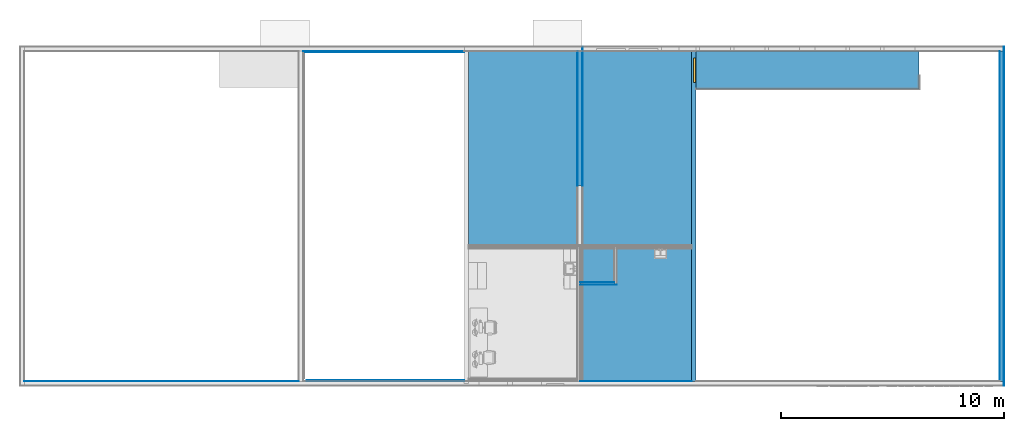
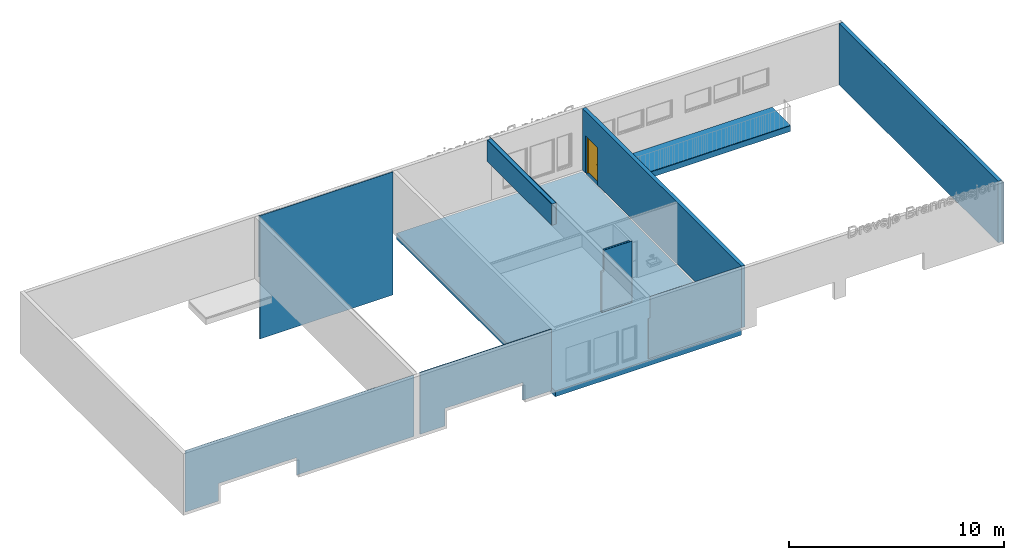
# One storey, part 2 of 12: 21 building element parts, 1 door, 4 openings, 10 elements without a shape of their own.
"""IFC4 building model written with IfcOpenShell, lengths in millimetres."""

import ifcopenshell
import ifcopenshell.guid

model = None  # the IFC model being written
_history = None  # IfcOwnerHistory: only IFC2X3 demands one
_inside = {}  # id of a spatial element -> (the spatial element, [elements in it])
_under = {}  # id of a project, library or spatial element -> (it, [spatial elements below it])
_declared = {}  # id of a project -> (the project, [libraries it declares])
_typed = {}  # id of a type object -> (the type object, [elements of that type])
_made_of = {}  # id of a material, layer set ... -> (it, [elements and type objects made of it])


def new_model(schema):
    """Start an empty IFC model of exactly this schema.

    Asked for "IFC4X3", IfcOpenShell would pick the latest addendum, in which some entities
    have other attributes; the version numbers below select the first issue.
    IFC2X3 requires an IfcOwnerHistory on every rooted entity: one is made here for all.
    """
    global model, _history
    if schema == "IFC4X3":
        model = ifcopenshell.file(schema_version=(4, 3, 0, 0))
    else:
        model = ifcopenshell.file(schema=schema)
    _inside.clear()
    _under.clear()
    _declared.clear()
    _typed.clear()
    _made_of.clear()
    _history = None
    if model.schema == "IFC2X3":
        org = make("IfcOrganization", Name="unknown")
        user = make(
            "IfcPersonAndOrganization",
            ThePerson=make("IfcPerson", FamilyName="unknown"),
            TheOrganization=org,
        )
        app = make(
            "IfcApplication",
            ApplicationDeveloper=org,
            Version="unknown",
            ApplicationFullName="unknown",
            ApplicationIdentifier="unknown",
        )
        _history = make(
            "IfcOwnerHistory",
            OwningUser=user,
            OwningApplication=app,
            ChangeAction="ADDED",
            CreationDate=0,
        )
    return model


def make(cls, **values):
    """One entity of the class cls with the attributes given. An attribute that is None is left unset."""
    return model.create_entity(
        cls, **{name: value for name, value in values.items() if value is not None}
    )


def entity(cls, *values):
    """Any entity or typed value of the class cls, its attributes in the order of the schema. None: left unset."""
    e = model.create_entity(cls)
    for i, value in enumerate(values):
        if value is not None:
            e[i] = value
    return e


def rooted(cls, **values):
    """An entity with a GlobalId (a new one), such as an element, a storey or a relation."""
    return make(cls, GlobalId=ifcopenshell.guid.new(), OwnerHistory=_history, **values)


def si_unit(unit_type, name, prefix=None):
    """IfcSIUnit, for example si_unit("LENGTHUNIT", "METRE", prefix="MILLI")."""
    return make("IfcSIUnit", UnitType=unit_type, Prefix=prefix, Name=name)


def converted_unit(unit_type, name, factor, base, dimensions=None, offset=None):
    """IfcConversionBasedUnit, such as the inch: factor (a typed value) times the base unit."""
    return make(
        "IfcConversionBasedUnit"
        if offset is None
        else "IfcConversionBasedUnitWithOffset",
        ConversionOffset=offset,
        Dimensions=None
        if dimensions is None
        else entity("IfcDimensionalExponents", *dimensions),
        UnitType=unit_type,
        Name=name,
        ConversionFactor=make(
            "IfcMeasureWithUnit", ValueComponent=factor, UnitComponent=base
        ),
    )


def assignment(units):
    """IfcUnitAssignment: the units of a project."""
    return None if units is None else make("IfcUnitAssignment", Units=units)


def point(xyz):
    """IfcCartesianPoint."""
    return None if xyz is None else make("IfcCartesianPoint", Coordinates=xyz)


def direction(xyz):
    """IfcDirection."""
    return None if xyz is None else make("IfcDirection", DirectionRatios=xyz)


def frame(location, z_axis=None, x_axis=None):
    """IfcAxis2Placement3D, a coordinate frame: its origin and axes. An axis left out is left unset."""
    return make(
        "IfcAxis2Placement3D",
        Location=point(location),
        Axis=direction(z_axis),
        RefDirection=direction(x_axis),
    )


def origin():
    """The frame at (0, 0, 0) with its axes left unset."""
    return frame((0.0, 0.0, 0.0))


def place(relative_to, where):
    """IfcLocalPlacement: puts the frame where relative to a parent placement (None: the world)."""
    return make(
        "IfcLocalPlacement", PlacementRelTo=relative_to, RelativePlacement=where
    )


def context(
    kind, dimensions, precision=None, world=None, true_north=None, identifier=None
):
    """IfcGeometricRepresentationContext, for example the 3D "Model" context."""
    return make(
        "IfcGeometricRepresentationContext",
        ContextIdentifier=identifier,
        ContextType=kind,
        CoordinateSpaceDimension=dimensions,
        Precision=precision,
        WorldCoordinateSystem=world,
        TrueNorth=true_north,
    )


def subcontext(parent, identifier, kind, view, scale=None):
    """IfcGeometricRepresentationSubContext, for example "Body" below "Model"."""
    return make(
        "IfcGeometricRepresentationSubContext",
        ContextIdentifier=identifier,
        ContextType=kind,
        ParentContext=parent,
        TargetScale=scale,
        TargetView=view,
    )


def project(units=None, contexts=None):
    """IfcProject with its units and contexts."""
    return rooted(
        "IfcProject",
        Name="project",
        RepresentationContexts=contexts,
        UnitsInContext=assignment(units),
    )


def spatial(cls, under=None, at=None, **own):
    """A site, building, storey or space (cls), placed at a placement, below another one or the project."""
    s = rooted(cls, ObjectPlacement=at, **own)
    if under is not None:
        _under.setdefault(under.id(), (under, []))[1].append(s)
    return s


def point_list(points):
    """IfcCartesianPointList2D or 3D."""
    cls = (
        "IfcCartesianPointList2D" if len(points[0]) == 2 else "IfcCartesianPointList3D"
    )
    return make(cls, CoordList=points)


def indexed_curve(points, segments=None, self_intersect=None):
    """IfcIndexedPolyCurve: lines and arcs through numbered points (the first is 1)."""
    return make(
        "IfcIndexedPolyCurve",
        Points=point_list(points),
        Segments=segments,
        SelfIntersect=self_intersect,
    )


def outline(outer, holes=None, kind="AREA"):
    """IfcArbitraryClosedProfileDef: a profile drawn as a closed curve; with holes, ...WithVoids."""
    if holes is None:
        return make("IfcArbitraryClosedProfileDef", ProfileType=kind, OuterCurve=outer)
    return make(
        "IfcArbitraryProfileDefWithVoids",
        ProfileType=kind,
        OuterCurve=outer,
        InnerCurves=holes,
    )


def extrude(swept, where, along, depth):
    """IfcExtrudedAreaSolid: the profile swept, set in the frame where, extruded along a direction by depth."""
    return make(
        "IfcExtrudedAreaSolid",
        SweptArea=swept,
        Position=where,
        ExtrudedDirection=direction(along),
        Depth=depth,
    )


def polygons(points, faces, closed=None, point_numbers=None):
    """IfcPolygonalFaceSet: a face is its outer loop, then its inner loops; points numbered from 1."""
    made = []
    for loops in faces:
        if len(loops) == 1:
            made.append(make("IfcIndexedPolygonalFace", CoordIndex=loops[0]))
        else:
            made.append(
                make(
                    "IfcIndexedPolygonalFaceWithVoids",
                    CoordIndex=loops[0],
                    InnerCoordIndices=loops[1:],
                )
            )
    return make(
        "IfcPolygonalFaceSet",
        Coordinates=point_list(points),
        Closed=closed,
        Faces=made,
        PnIndex=point_numbers,
    )


def shape(context_of_items, identifier, shape_type, items):
    """IfcShapeRepresentation: the items that make up one representation, for example the "Body"."""
    return make(
        "IfcShapeRepresentation",
        ContextOfItems=context_of_items,
        RepresentationIdentifier=identifier,
        RepresentationType=shape_type,
        Items=items,
    )


def source(mapping_origin, context_of_items, identifier, shape_type, items):
    """IfcRepresentationMap: a shape defined once, which mapped items show again and again."""
    return make(
        "IfcRepresentationMap",
        MappingOrigin=mapping_origin,
        MappedRepresentation=shape(context_of_items, identifier, shape_type, items),
    )


def transform(
    local_origin,
    x_axis=None,
    y_axis=None,
    z_axis=None,
    scale=None,
    scale2=None,
    scale3=None,
    uniform=True,
):
    """IfcCartesianTransformationOperator3D, or its non-uniform kind. x_axis, y_axis, z_axis: its Axis1, 2, 3."""
    if uniform:
        return make(
            "IfcCartesianTransformationOperator3D",
            Axis1=direction(x_axis),
            Axis2=direction(y_axis),
            LocalOrigin=point(local_origin),
            Scale=scale,
            Axis3=direction(z_axis),
        )
    return make(
        "IfcCartesianTransformationOperator3DnonUniform",
        Axis1=direction(x_axis),
        Axis2=direction(y_axis),
        LocalOrigin=point(local_origin),
        Scale=scale,
        Axis3=direction(z_axis),
        Scale2=scale2,
        Scale3=scale3,
    )


def mapped(mapping_source, mapping_target):
    """IfcMappedItem: shows the shape of a source again, moved by a transform."""
    return make(
        "IfcMappedItem", MappingSource=mapping_source, MappingTarget=mapping_target
    )


def material(Name=None, Category=None):
    """IfcMaterial."""
    return make("IfcMaterial", Name=Name, Category=Category)


def constituent(of_material, Name=None, Category=None, fraction=None):
    """IfcMaterialConstituent: one of the materials an element consists of."""
    return make(
        "IfcMaterialConstituent",
        Name=Name,
        Material=of_material,
        Fraction=fraction,
        Category=Category,
    )


def constituent_set(constituents=None, Name=None):
    """IfcMaterialConstituentSet."""
    return make(
        "IfcMaterialConstituentSet", Name=Name, MaterialConstituents=constituents
    )


def made_of(thing, what):
    """Note that an element or type object is made of a material, layer set ...; save() writes the relation."""
    if what is not None:
        _made_of.setdefault(what.id(), (what, []))[1].append(thing)
    return thing


def type_object(cls, material=None, **own):
    """A type object (cls), such as IfcWallType, which elements share."""
    return made_of(rooted(cls, **own), material)


def type_shapes(of_type, sources):
    """Give a type object the sources (RepresentationMaps) that its elements show as mapped items."""
    of_type.RepresentationMaps = sources


def element(
    cls,
    number,
    at=None,
    inside=None,
    cuts=None,
    type_object=None,
    material=None,
    context=None,
    identifier="Body",
    shape_type=None,
    held_by="IfcProductDefinitionShape",
    body=None,
    shapes=None,
    **own,
):
    """One element of the class cls, such as IfcWall. Its Tag is "e" and its number.

    at: its placement. inside: the storey or other place that contains it. cuts: it is an
    opening in that element (IfcRelVoidsElement). A single representation is given by context,
    identifier, shape_type and body (its items); several are given by shapes. held_by: the class
    of the entity that holds the representations. save() writes the other relations.
    """
    e = rooted(cls, Tag="e%d" % number, ObjectPlacement=at, **own)
    if body is not None:
        shapes = [shape(context, identifier, shape_type, body)]
    if shapes is not None:
        e.Representation = make(held_by, Representations=shapes)
    if inside is not None:
        _inside.setdefault(inside.id(), (inside, []))[1].append(e)
    if cuts is not None:
        rooted(
            "IfcRelVoidsElement", RelatingBuildingElement=cuts, RelatedOpeningElement=e
        )
    if type_object is not None:
        _typed.setdefault(type_object.id(), (type_object, []))[1].append(e)
    return made_of(e, material)


def fill(opening, filler):
    """IfcRelFillsElement: the door or window that sits in an opening."""
    return rooted(
        "IfcRelFillsElement",
        RelatingOpeningElement=opening,
        RelatedBuildingElement=filler,
    )


def aggregate(whole, parts):
    """IfcRelAggregates: a whole, such as a stair, and the parts it consists of."""
    return rooted("IfcRelAggregates", RelatingObject=whole, RelatedObjects=parts)


def save(model, path):
    """Write the relations noted so far, then the file.

    IfcRelAggregates (storeys below a building ...), IfcRelContainedInSpatialStructure (elements
    in a storey), IfcRelDefinesByType, IfcRelAssociatesMaterial and IfcRelDeclares: one each for
    every whole, place, type object, material and project.
    """
    for whole, parts in _under.values():
        aggregate(whole, parts)
    for where, things in _inside.values():
        rooted(
            "IfcRelContainedInSpatialStructure",
            RelatedElements=things,
            RelatingStructure=where,
        )
    for kind, things in _typed.values():
        rooted("IfcRelDefinesByType", RelatedObjects=things, RelatingType=kind)
    for what, things in _made_of.values():
        rooted("IfcRelAssociatesMaterial", RelatedObjects=things, RelatingMaterial=what)
    for by, libraries in _declared.values():
        rooted("IfcRelDeclares", RelatingContext=by, RelatedDefinitions=libraries)
    model.write(path)


model = new_model("IFC4")

# Units and contexts
model_context = context("Model", 3, precision=0.01, world=origin(), true_north=direction((0.0, 1.0)))
body_context = subcontext(model_context, "Body", "Model", "MODEL_VIEW")
ifc_project = project(units=[si_unit("LENGTHUNIT", "METRE", prefix="MILLI"), si_unit("AREAUNIT", "SQUARE_METRE"), si_unit("VOLUMEUNIT", "CUBIC_METRE"), converted_unit("PLANEANGLEUNIT", "DEGREE", entity("IfcPlaneAngleMeasure", 0.017453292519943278), si_unit("PLANEANGLEUNIT", "RADIAN"), dimensions=[0, 0, 0, 0, 0, 0, 0])], contexts=[model_context])

# Site, building, storey
site_placement = place(None, origin())
site = spatial("IfcSite", under=ifc_project, at=site_placement, Name="Tomtens navn", CompositionType="ELEMENT")
building_placement = place(site_placement, origin())
building = spatial("IfcBuilding", under=site, at=building_placement, Name="Byggets navn", CompositionType="ELEMENT")
storey_placement = place(building_placement, frame((0.0, 0.0, 3500.0)))
storey = spatial("IfcBuildingStorey", under=building, at=storey_placement, Name="Level 02", CompositionType="ELEMENT", Elevation=3499.999999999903)

# Door
ifc_material_1 = material(Name="Rustfritt Stål", Category="Metal")
ifc_constituent_1 = constituent(ifc_material_1, Name="Rustfritt Stål", Category="Metal", fraction=0.0016552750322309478)
ifc_material_2 = material(Name="Hvit", Category="Paint")
ifc_constituent_2 = constituent(ifc_material_2, Name="Hvit", Category="Paint", fraction=0.998344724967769)
ifc_constituent_set_1 = constituent_set(constituents=[ifc_constituent_1, ifc_constituent_2])
ifc_constituent_3 = constituent(ifc_material_1, Name="Rustfritt Stål", Category="Metal", fraction=0.0008283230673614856)
ifc_constituent_4 = constituent(ifc_material_2, Name="Panel", Category="Paint", fraction=0.4995858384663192)
ifc_constituent_5 = constituent(ifc_material_2, Name="Frame/Mullion", Category="Paint", fraction=0.4995858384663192)
ifc_constituent_set_2 = constituent_set(constituents=[ifc_constituent_3, ifc_constituent_4, ifc_constituent_5])
door_type = type_object("IfcDoorType", Name="Enfløyet:ID02 11x21M", OperationType="SINGLE_SWING_LEFT", PredefinedType="DOOR", material=ifc_constituent_set_2)
shared_shape = source(origin(), body_context, "Body", "SweptSolid", [
    extrude(outline(indexed_curve([(-33.33333333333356, -50.833333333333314), (24.16666666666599, -50.833333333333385), (24.16666666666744, 86.66666666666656), (9.166666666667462, 86.6666666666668), (9.166666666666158, -35.83333333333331), (-33.33333333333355, -35.83333333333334), (-33.33333333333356, -50.833333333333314)], self_intersect=False)), frame((968.6666666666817, 198.9410394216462, 980.5000000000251), z_axis=(0.0, 0.0, 1.0), x_axis=(0.0, 1.0, 0.0)), (0.0, 0.0, 1.0), 14.999999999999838),
    extrude(outline(indexed_curve([(-2.8000000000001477, -25.000000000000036), (2.7999999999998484, -25.000000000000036), (2.8000000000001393, 25.000000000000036), (-2.7999999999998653, 24.999999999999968), (-2.8000000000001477, -25.000000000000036)], self_intersect=False)), frame((1012.0, 162.8000000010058, 850.9862950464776), z_axis=(0.0, 0.0, 1.0), x_axis=(0.0, -1.0, 0.0)), (0.0, 0.0, 1.0), 159.01370495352),
    extrude(outline(indexed_curve([(-50.83333333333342, -33.33333333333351), (-35.83333333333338, -33.33333333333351), (-35.83333333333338, 9.166666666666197), (86.66666666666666, 9.166666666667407), (86.66666666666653, 24.1666666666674), (-50.83333333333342, 24.166666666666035), (-50.83333333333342, -33.33333333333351)], self_intersect=False)), frame((968.6666666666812, 81.05896058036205, 980.5000000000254), z_axis=(0.0, 0.0, 1.0), x_axis=(-1.0, 0.0, 0.0)), (0.0, 0.0, 1.0), 14.999999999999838),
    extrude(outline(indexed_curve([(-25.0, -2.800000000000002), (25.0, -2.800000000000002), (24.999999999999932, 2.799999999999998), (-25.0, 2.799999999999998), (-25.0, -2.800000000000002)], self_intersect=False)), frame((1012.0, 117.20000000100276, 850.9862950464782)), (0.0, 0.0, 1.0), 159.01370495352),
    extrude(outline(indexed_curve([(-506.99999999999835, -19.999999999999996), (506.99999999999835, -19.999999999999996), (506.99999999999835, 19.999999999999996), (-506.99999999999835, 19.999999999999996), (-506.99999999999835, -19.999999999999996)], self_intersect=False)), frame((555.0, 140.00000000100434, 10.0)), (0.0, 0.0, 1.0), 2042.0),
    extrude(outline(indexed_curve([(506.9999999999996, -1035.5000000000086), (544.9999999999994, -1035.5000000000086), (544.9999999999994, 1054.5000000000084), (-544.9999999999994, 1054.5000000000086), (-544.9999999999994, -1035.5000000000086), (-506.9999999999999, -1035.5000000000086), (-506.9999999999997, 1016.5000000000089), (506.9999999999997, 1016.5000000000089), (506.9999999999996, -1035.5000000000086)], self_intersect=False)), frame((555.0, 160.00000000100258, 1035.5000000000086), z_axis=(0.0, -1.0, 0.0), x_axis=(1.0, 0.0, 0.0)), (0.0, 0.0, 1.0), 99.99999999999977),
])
type_shapes(door_type, [shared_shape])
wall_6_placement = place(storey_placement, frame((68722.85352810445, 8061.466456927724, 0.0), z_axis=(0.0, 0.0, 1.0), x_axis=(0.0, 1.0, 0.0)))
opening_4_placement = place(wall_6_placement, frame((14500.0, 100.0, 0.0)))
door_placement = place(opening_4_placement, frame((0.0, -20.0, 0.0), z_axis=(0.0, 0.0, 1.0), x_axis=(-1.0, 0.0, 0.0)))
door = element("IfcDoor", 1, at=door_placement, inside=storey, type_object=door_type, material=ifc_constituent_set_1, Name="Enfløyet:ID02 11x21M", OverallHeight=2110.0000000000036, OverallWidth=1109.9999999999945, PredefinedType="DOOR", context=body_context, shape_type="MappedRepresentation", body=[
    mapped(shared_shape, transform((0.0, 0.0, 0.0), scale=1.0)),
])

# Wall, openings, building element parts
wall_type_1 = type_object("IfcWallType", Name="Basic Wall:YV02 Sandwichvegg 200", PredefinedType="STANDARD")
wall_1_placement = place(storey_placement, frame((82622.85352810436, 7961.466456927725, 0.0), z_axis=(0.0, 0.0, 1.0), x_axis=(-1.0, 0.0, 0.0)))
wall_1 = element("IfcWall", 2, at=wall_1_placement, inside=storey, type_object=wall_type_1, Name="Basic Wall:YV02 Sandwichvegg 200", PredefinedType="NOTDEFINED")
opening_1_placement = place(wall_1_placement, frame((20527.0, 100.0, 400.0)))
element("IfcOpeningElement", 3, at=opening_1_placement, cuts=wall_1, Name="Åpningsvindu:V02 8x19M:1", PredefinedType="OPENING", context=body_context, shape_type="SweptSolid", body=[
    extrude(outline(indexed_curve([(0.0, -5.414335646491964e-13), (1910.0000000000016, -5.414335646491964e-13), (1910.0000000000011, 809.9999999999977), (0.0, 809.9999999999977), (0.0, -5.414335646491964e-13)], self_intersect=False)), frame((0.0, 0.0, 0.0), z_axis=(0.0, -1.0, 0.0), x_axis=(0.0, 0.0, 1.0)), (0.0, 0.0, 1.0), 200.0),
])
opening_2_placement = place(wall_1_placement, frame((20727.0, -100.0, 400.0)))
element("IfcOpeningElement", 4, at=opening_2_placement, cuts=wall_1, Name="Fastvindu:V01 13x19M:1", PredefinedType="OPENING", context=body_context, shape_type="SweptSolid", body=[
    extrude(outline(indexed_curve([(0.0, 1310.0000000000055), (0.0, 1.4975171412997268e-29), (1910.000000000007, 1.4975171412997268e-29), (1910.000000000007, 1310.0000000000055), (0.0, 1310.0000000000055)], self_intersect=False)), frame((0.0, 0.0, 0.0), z_axis=(0.0, 1.0, 0.0), x_axis=(0.0, 0.0, 1.0)), (0.0, 0.0, 1.0), 200.0),
])
opening_3_placement = place(wall_1_placement, frame((22237.0, -100.0, 400.0)))
element("IfcOpeningElement", 5, at=opening_3_placement, cuts=wall_1, Name="Fastvindu:V01 13x19M:1", PredefinedType="OPENING", context=body_context, shape_type="SweptSolid", body=[
    extrude(outline(indexed_curve([(0.0, 1310.0000000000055), (0.0, 1.6847067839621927e-29), (1910.000000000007, 1.6847067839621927e-29), (1910.000000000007, 1310.0000000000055), (0.0, 1310.0000000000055)], self_intersect=False)), frame((0.0, 0.0, 0.0), z_axis=(0.0, 1.0, 0.0), x_axis=(0.0, 0.0, 1.0)), (0.0, 0.0, 1.0), 200.0),
])
building_element_part_1_placement = place(wall_1_placement, frame((19005.499999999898, -98.0, 0.0)))
building_element_part_1 = element("IfcBuildingElementPart", 6, at=building_element_part_1_placement, material=ifc_material_1, Name="Rustfritt Stål", context=body_context, shape_type="Tessellation", body=[
    polygons([(-8.916469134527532e-13, 9.094947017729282e-13, -9.094947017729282e-13), (-8.916469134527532e-13, 9.094947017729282e-13, 2290.000000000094), (-8.918681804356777e-13, -1.9999999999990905, 2290.000000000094), (-8.918681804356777e-13, -1.9999999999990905, -9.094947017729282e-13), (-5005.499999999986, -1.8189894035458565e-12, 3499.9999999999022), (-5005.499999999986, -1.8189894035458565e-12, -9.094947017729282e-13), (-5005.499999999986, -2.0000000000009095, -9.094947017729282e-13), (-5005.499999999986, -2.0000000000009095, 3499.999999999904), (-104.99999999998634, -1.9999999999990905, 2290.000000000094), (-104.99999999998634, 9.094947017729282e-13, 2290.000000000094), (-104.99999999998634, 9.094947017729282e-13, 3499.9999999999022), (-104.99999999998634, -1.9999999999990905, 3499.999999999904), (-130.99999999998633, -1.9999999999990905, 3499.999999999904), (-28.00000000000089, -1.9999999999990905, -9.094947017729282e-13)], [[[1, 2, 3, 4]], [[5, 6, 7, 8]], [[9, 10, 11, 12]], [[10, 9, 3, 2]], [[13, 8, 7, 14, 4, 3, 9, 12]], [[14, 7, 6, 1, 4]], [[8, 13, 12, 11, 5]], [[2, 1, 6, 5, 11, 10]]], closed=True),
])
building_element_part_2_placement = place(wall_1_placement, frame((43910.0, -98.0, 0.0)))
building_element_part_2 = element("IfcBuildingElementPart", 7, at=building_element_part_2_placement, material=ifc_material_1, Name="Rustfritt Stål", context=body_context, shape_type="Tessellation", body=[
    polygons([(-12300.000000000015, -2.0, 3499.9999999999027), (-8.918681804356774e-13, -1.9999999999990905, 3499.9999999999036), (-8.91646913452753e-13, 0.0, 3499.9999999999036), (-12302.000000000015, 0.0, 3499.9999999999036), (-12302.000000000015, -2.0, 3499.9999999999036), (-8.91646913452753e-13, 0.0, 4.547473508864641e-13), (-8.918681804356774e-13, -1.9999999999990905, 4.547473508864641e-13), (-1810.0000000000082, 0.0, 1000.0000000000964), (-1810.000000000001, 0.0, 4.547473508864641e-13), (-1810.0000000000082, -1.9999999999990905, 4.547473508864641e-13), (-1810.000000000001, -1.9999999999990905, 1000.0000000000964), (-6009.999999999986, -9.094947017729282e-13, 1000.0000000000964), (-6010.000000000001, -2.0000000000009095, 1000.0000000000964), (-6010.000000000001, -9.094947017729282e-13, 4.547473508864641e-13), (-6010.000000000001, -2.0000000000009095, 4.547473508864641e-13), (-12302.000000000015, 0.0, 4.547473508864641e-13), (-12302.000000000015, -2.0, 4.547473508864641e-13), (-12300.000000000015, -2.0, 4.547473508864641e-13)], [[[1, 2, 3, 4, 5]], [[6, 3, 2, 7]], [[8, 9, 10, 11]], [[12, 8, 11, 13]], [[14, 12, 13, 15]], [[9, 6, 7, 10]], [[4, 16, 17, 5]], [[2, 1, 5, 17, 18, 15, 13, 11, 10, 7]], [[14, 15, 18, 17, 16]], [[3, 6, 9, 8, 12, 14, 16, 4]]], closed=True),
])
aggregate(wall_1, [building_element_part_1, building_element_part_2])

# Slab, building element part
slab_type_1 = type_object("IfcSlabType", Name="Floor:HD-320+ isolasjon og avretting", PredefinedType="FLOOR")
slab_1_placement = place(storey_placement, origin())
slab_1 = element("IfcSlab", 8, at=slab_1_placement, inside=storey, type_object=slab_type_1, Name="Floor:HD-320+ isolasjon og avretting", PredefinedType="FLOOR")
building_element_part_3_placement = place(slab_1_placement, origin())
building_element_part_3 = element("IfcBuildingElementPart", 9, at=building_element_part_3_placement, Name="Floor:HD-320+ isolasjon og avretting", context=body_context, shape_type="SweptSolid", body=[
    extrude(outline(indexed_curve([(-7400.000000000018, -4999.999999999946), (7400.000000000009, -4999.999999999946), (7400.000000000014, 4999.999999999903), (-7400.000000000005, 4999.999999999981), (-7400.000000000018, -4999.999999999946)], self_intersect=False)), frame((63622.853528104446, 15461.46645692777, -412.0), z_axis=(0.0, 0.0, 1.0), x_axis=(0.0, -1.0, 0.0)), (0.0, 0.0, 1.0), 319.99999999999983),
])
aggregate(slab_1, [building_element_part_3])

# Wall, building element parts
wall_type_2 = type_object("IfcWallType", Name="Basic Wall:IV25 - 2xGips- Stende4+2xgips 2", PredefinedType="STANDARD")
wall_2_placement = place(storey_placement, frame((63622.35352810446, 22861.46645692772, 2290.0), z_axis=(0.0, 0.0, 1.0), x_axis=(0.0, -1.0, 0.0)))
wall_2 = element("IfcWall", 10, at=wall_2_placement, inside=storey, type_object=wall_type_2, Name="Basic Wall:IV25 - 2xGips- Stende4+2xgips 2", PredefinedType="NOTDEFINED")
ifc_material_3 = material(Name="Gipsplater", Category="NOR ^ Gips")
building_element_part_4_placement = place(wall_2_placement, origin())
building_element_part_4 = element("IfcBuildingElementPart", 11, at=building_element_part_4_placement, material=ifc_material_3, Name="Gipsplater", context=body_context, shape_type="SweptSolid", body=[
    extrude(outline(indexed_curve([(-3110.249999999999, -6.49999999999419), (3110.249999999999, -6.49999999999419), (3110.249999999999, 6.500000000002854), (-3110.249999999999, 6.500000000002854), (-3110.249999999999, -6.49999999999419)], self_intersect=False)), frame((2910.250000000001, 119.49999999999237, 0.0)), (0.0, 0.0, 1.0), 1210.0),
])
building_element_part_5_placement = place(wall_2_placement, origin())
building_element_part_5 = element("IfcBuildingElementPart", 12, at=building_element_part_5_placement, material=ifc_material_3, Name="Gipsplater", context=body_context, shape_type="SweptSolid", body=[
    extrude(outline(indexed_curve([(-3010.25, -6.500000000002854), (3010.25, -6.500000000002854), (3010.25, 6.49999999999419), (-3010.25, 6.49999999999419), (-3010.25, -6.500000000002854)], self_intersect=False)), frame((3010.25, -106.49999999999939, 0.0)), (0.0, 0.0, 1.0), 1210.0),
])
building_element_part_6_placement = place(wall_2_placement, origin())
building_element_part_6 = element("IfcBuildingElementPart", 13, at=building_element_part_6_placement, material=ifc_material_3, Name="Gipsplater", context=body_context, shape_type="SweptSolid", body=[
    extrude(outline(indexed_curve([(-3109.249999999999, -6.500000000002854), (3109.249999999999, -6.500000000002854), (3109.249999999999, 6.49999999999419), (-3109.249999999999, 6.49999999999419), (-3109.249999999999, -6.500000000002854)], self_intersect=False)), frame((2911.250000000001, 106.500000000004, 0.0)), (0.0, 0.0, 1.0), 1210.0000000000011),
])
building_element_part_7_placement = place(wall_2_placement, origin())
building_element_part_7 = element("IfcBuildingElementPart", 14, at=building_element_part_7_placement, material=ifc_material_3, Name="Gipsplater", context=body_context, shape_type="SweptSolid", body=[
    extrude(outline(indexed_curve([(-3010.25, -6.500000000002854), (3010.25, -6.500000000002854), (3010.25, 6.500000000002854), (-3010.25, 6.500000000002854), (-3010.25, -6.500000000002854)], self_intersect=False)), frame((3010.25, -119.5000000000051, 0.0)), (0.0, 0.0, 1.0), 1210.0),
])
ifc_material_4 = material(Name="Stender", Category="Unassigned")
building_element_part_8_placement = place(wall_2_placement, origin())
building_element_part_8 = element("IfcBuildingElementPart", 15, at=building_element_part_8_placement, material=ifc_material_4, Name="Stender", context=body_context, shape_type="SweptSolid", body=[
    extrude(outline(indexed_curve([(-3011.25, -99.99999999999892), (3011.25, -99.99999999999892), (3011.250000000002, 100.00000000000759), (-3011.25, 100.00000000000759), (-3011.25, -99.99999999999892)], self_intersect=False)), frame((3009.2500000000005, 0.0, 0.0)), (0.0, 0.0, 1.0), 1210.0000000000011),
])
aggregate(wall_2, [building_element_part_4, building_element_part_5, building_element_part_6, building_element_part_7, building_element_part_8])

# Wall, building element part
wall_type_3 = type_object("IfcWallType", Name="Basic Wall:IV17 - Utforing lekt+fasadeplater", PredefinedType="STANDARD")
wall_3_placement = place(storey_placement, frame((51258.853528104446, 22838.46645692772, -3500.0)))
wall_3 = element("IfcWall", 16, at=wall_3_placement, inside=storey, type_object=wall_type_3, Name="Basic Wall:IV17 - Utforing lekt+fasadeplater", PredefinedType="NOTDEFINED")
ifc_material_5 = material(Name="NO_platekledning", Category="Tre")
building_element_part_9_placement = place(wall_3_placement, origin())
building_element_part_9 = element("IfcBuildingElementPart", 17, at=building_element_part_9_placement, material=ifc_material_5, Name="NO_platekledning", context=body_context, shape_type="SweptSolid", body=[
    extrude(outline(indexed_curve([(-4.999999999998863, -3582.0000000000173), (4.999999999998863, -3582.0000000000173), (4.999999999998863, 3582.0), (-4.999999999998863, 3582.0000000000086), (-4.999999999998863, -3582.0000000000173)], self_intersect=False)), frame((3582.0, -18.0, 0.0), z_axis=(0.0, 0.0, 1.0), x_axis=(0.0, -1.0, 0.0)), (0.0, 0.0, 1.0), 6999.999999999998),
])
aggregate(wall_3, [building_element_part_9])

# Wall, building element parts
wall_4_placement = place(storey_placement, frame((51362.853528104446, 8084.466456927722, 0.0)))
wall_4 = element("IfcWall", 18, at=wall_4_placement, inside=storey, type_object=wall_type_3, Name="Basic Wall:IV17 - Utforing lekt+fasadeplater", PredefinedType="NOTDEFINED")
building_element_part_10_placement = place(wall_4_placement, frame((0.0, 13.0, 0.0)))
building_element_part_10 = element("IfcBuildingElementPart", 19, at=building_element_part_10_placement, material=ifc_material_5, Name="NO_platekledning", context=body_context, shape_type="Tessellation", body=[
    polygons([(8.822346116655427e-13, 0.0, -9.094947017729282e-13), (1319.9999999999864, 0.0, -9.094947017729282e-13), (1319.9999999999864, 0.0, 1000.000000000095), (5519.999999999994, 0.0, 1000.000000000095), (5519.999999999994, 0.0, -9.094947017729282e-13), (7060.000000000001, 0.0, 0.0), (7060.000000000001, 0.0, 3499.9999999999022), (8.158192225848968e-12, 0.0, 3499.999999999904), (8.833241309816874e-13, 10.00000000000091, -9.094947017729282e-13), (1319.9999999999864, 10.00000000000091, -9.094947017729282e-13), (7060.000000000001, 10.0, 3499.9999999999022), (8.833241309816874e-13, 10.00000000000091, 3499.9999999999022), (7060.000000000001, 10.0, -9.094947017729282e-13), (1319.9999999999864, 10.00000000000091, 1000.000000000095), (5519.999999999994, 10.0, 1000.000000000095), (5519.999999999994, 10.0, -9.094947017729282e-13)], [[[1, 2, 3, 4, 5, 6, 7, 8]], [[9, 10, 2, 1]], [[11, 12, 8, 7]], [[12, 9, 1, 8]], [[13, 11, 7, 6]], [[14, 15, 4, 3]], [[15, 16, 5, 4]], [[10, 14, 3, 2]], [[16, 13, 6, 5]], [[12, 11, 13, 16, 15, 14, 10, 9]]], closed=True),
])
building_element_part_11_placement = place(wall_4_placement, frame((0.0, -23.0, 0.0)))
building_element_part_11 = element("IfcBuildingElementPart", 20, at=building_element_part_11_placement, material=ifc_material_4, Name="Stender", context=body_context, shape_type="Tessellation", body=[
    polygons([(1319.9999999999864, 36.0, -9.094947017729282e-13), (8.822346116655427e-13, 36.0, -9.094947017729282e-13), (8.158192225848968e-12, 36.0, 3499.999999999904), (7060.000000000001, 36.0, 3499.9999999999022), (7060.000000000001, 36.0, 0.0), (5519.999999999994, 36.0, -9.094947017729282e-13), (5519.999999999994, 36.0, 1000.000000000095), (1319.9999999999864, 36.0, 1000.000000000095), (7060.000000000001, 0.0, 3499.9999999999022), (8.783123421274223e-13, 0.0, 3499.9999999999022), (8.783123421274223e-13, 0.0, -9.094947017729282e-13), (1319.9999999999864, 0.0, -9.094947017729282e-13), (1319.9999999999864, 0.0, 1000.000000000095), (5519.999999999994, -9.094947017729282e-13, 1000.000000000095), (5519.999999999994, 0.0, -9.094947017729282e-13), (7060.000000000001, 0.0, -9.094947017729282e-13)], [[[1, 2, 3, 4, 5, 6, 7, 8]], [[9, 10, 11, 12, 13, 14, 15, 16]], [[12, 11, 2, 1]], [[10, 9, 4, 3]], [[11, 10, 3, 2]], [[9, 16, 5, 4]], [[14, 13, 8, 7]], [[15, 14, 7, 6]], [[13, 12, 1, 8]], [[16, 15, 6, 5]]], closed=True),
])
aggregate(wall_4, [building_element_part_10, building_element_part_11])

# Slab, building element parts
slab_type_2 = type_object("IfcSlabType", Name="Floor:HD-320 mesanin +30mm", PredefinedType="FLOOR")
slab_2_placement = place(storey_placement, origin())
slab_2 = element("IfcSlab", 21, at=slab_2_placement, inside=storey, type_object=slab_type_2, Name="Floor:HD-320 mesanin +30mm", PredefinedType="FLOOR")
ifc_material_6 = material(Name="NO_Betong - Plasstøpt", Category="Betong")
building_element_part_12_placement = place(slab_2_placement, origin())
building_element_part_12 = element("IfcBuildingElementPart", 22, at=building_element_part_12_placement, material=ifc_material_6, Name="NO_Betong - Plasstøpt", context=body_context, shape_type="SweptSolid", body=[
    extrude(outline(indexed_curve([(-851.0000000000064, -4999.999999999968), (850.9999999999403, -4999.999999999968), (851.000000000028, 4999.999999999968), (-850.9999999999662, 4999.999999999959), (-851.0000000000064, -4999.999999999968)], self_intersect=False)), frame((73822.85352810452, 22012.466456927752, -30.0), z_axis=(0.0, 0.0, 1.0), x_axis=(0.0, -1.0, 0.0)), (0.0, 0.0, 1.0), 30.00000000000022),
])
building_element_part_13_placement = place(slab_2_placement, origin())
building_element_part_13 = element("IfcBuildingElementPart", 23, at=building_element_part_13_placement, Name="Floor:HD-320 mesanin +30mm", context=body_context, shape_type="SweptSolid", body=[
    extrude(outline(indexed_curve([(-851.0000000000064, -4999.999999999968), (850.9999999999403, -4999.999999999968), (851.000000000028, 4999.999999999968), (-850.9999999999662, 4999.999999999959), (-851.0000000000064, -4999.999999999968)], self_intersect=False)), frame((73822.85352810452, 22012.466456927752, -350.0), z_axis=(0.0, 0.0, 1.0), x_axis=(0.0, -1.0, 0.0)), (0.0, 0.0, 1.0), 319.99999999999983),
])
aggregate(slab_2, [building_element_part_12, building_element_part_13])

# Wall, building element parts
wall_5_placement = place(storey_placement, frame((82522.85352810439, 22861.466456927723, 0.0), z_axis=(0.0, 0.0, 1.0), x_axis=(0.0, -1.0, 0.0)))
wall_5 = element("IfcWall", 24, at=wall_5_placement, inside=storey, type_object=wall_type_1, Name="Basic Wall:YV02 Sandwichvegg 200", PredefinedType="NOTDEFINED")
ifc_material_7 = material(Name="Metall - Malt overflate - Mørk Grå, Matt", Category="Unassigned")
building_element_part_14_placement = place(wall_5_placement, origin())
building_element_part_14 = element("IfcBuildingElementPart", 25, at=building_element_part_14_placement, material=ifc_material_7, Name="Metall - Malt overflate - Mørk Grå, Matt", context=body_context, shape_type="SweptSolid", body=[
    extrude(outline(indexed_curve([(-7597.999999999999, -1.0000000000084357), (7597.999999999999, -1.0000000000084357), (7597.999999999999, 0.9999999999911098), (-7597.999999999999, 0.9999999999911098), (-7597.999999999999, -1.0000000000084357)], self_intersect=False)), frame((7400.0, 99.0, 0.0)), (0.0, 0.0, 1.0), 3500.000000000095),
])
building_element_part_15_placement = place(wall_5_placement, origin())
building_element_part_15 = element("IfcBuildingElementPart", 26, at=building_element_part_15_placement, material=ifc_material_1, Name="Rustfritt Stål", context=body_context, shape_type="SweptSolid", body=[
    extrude(outline(indexed_curve([(-7399.999999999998, -1.0000000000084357), (7399.999999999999, -1.0000000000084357), (7399.999999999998, 1.0000000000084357), (-7399.999999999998, 1.0000000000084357), (-7399.999999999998, -1.0000000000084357)], self_intersect=False)), frame((7400.0, -99.0, 0.0)), (0.0, 0.0, 1.0), 3500.000000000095),
])
ifc_material_8 = material(Name="NO_Isolasjon - Fast", Category="Isolasjon")
building_element_part_16_placement = place(wall_5_placement, origin())
building_element_part_16 = element("IfcBuildingElementPart", 27, at=building_element_part_16_placement, material=ifc_material_8, Name="NO_Isolasjon - Fast", context=body_context, shape_type="SweptSolid", body=[
    extrude(outline(indexed_curve([(-7401.999999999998, -97.99999999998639), (7401.999999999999, -97.99999999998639), (7401.999999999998, 98.00000000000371), (-7401.999999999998, 98.00000000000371), (-7401.999999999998, -97.99999999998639)], self_intersect=False)), frame((7400.0, 0.0, 0.0)), (0.0, 0.0, 1.0), 3500.000000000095),
])
aggregate(wall_5, [building_element_part_14, building_element_part_15, building_element_part_16])

# Wall, opening
wall_type_4 = type_object("IfcWallType", Name="Basic Wall:IV21 Betong 200", PredefinedType="STANDARD")
wall_6 = element("IfcWall", 28, at=wall_6_placement, inside=storey, type_object=wall_type_4, Name="Basic Wall:IV21 Betong 200", PredefinedType="NOTDEFINED")
opening_4 = element("IfcOpeningElement", 29, at=opening_4_placement, cuts=wall_6, Name="Enfløyet:ID02 11x21M:1", PredefinedType="OPENING", context=body_context, shape_type="SweptSolid", body=[
    extrude(outline(indexed_curve([(0.0, 2.1657342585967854e-12), (2110.0000000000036, 2.1657342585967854e-12), (2110.000000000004, 1109.9999999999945), (0.0, 1109.9999999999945), (0.0, 2.1657342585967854e-12)], self_intersect=False)), frame((0.0, 0.0, 0.0), z_axis=(0.0, -1.0, 0.0), x_axis=(0.0, 0.0, 1.0)), (0.0, 0.0, 1.0), 200.0),
])

fill(opening_4, door)

# Building element part
building_element_part_17_placement = place(wall_6_placement, frame((-2.0, 100.0, 0.0)))
building_element_part_17 = element("IfcBuildingElementPart", 30, at=building_element_part_17_placement, material=ifc_material_6, Name="NO_Betong - Plasstøpt", context=body_context, shape_type="Tessellation", body=[
    polygons([(14801.999999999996, -200.00000000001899, 3499.9999999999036), (1.8189894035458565e-12, -200.00000000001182, 3499.9999999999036), (1.8189894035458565e-12, -200.00000000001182, 4.547473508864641e-13), (13392.000000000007, -200.0000000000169, 4.547473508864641e-13), (13392.000000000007, -200.0000000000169, 2110.0000000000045), (14502.0, -200.00000000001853, 2110.0000000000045), (14502.000000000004, -200.00000000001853, 4.547473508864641e-13), (14801.999999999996, -200.00000000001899, 4.547473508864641e-13), (1.8189894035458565e-12, -1.1819624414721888e-11, 3499.9999999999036), (5948.000000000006, -5.9907588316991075e-12, 3499.9999999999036), (6097.000000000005, -6.209275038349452e-12, 3499.9999999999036), (14801.999999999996, -4.423692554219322e-12, 3499.9999999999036), (14801.999999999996, -4.423692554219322e-12, 4.547473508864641e-13), (14502.000000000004, -3.983727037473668e-12, 4.547473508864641e-13), (14502.0, -3.9837270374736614e-12, 2110.0000000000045), (13392.000000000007, -2.3558546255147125e-12, 2110.0000000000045), (13392.000000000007, -2.3558546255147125e-12, 4.547473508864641e-13), (6097.000000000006, -6.2092750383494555e-12, 4.547473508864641e-13), (5948.000000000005, -5.9907588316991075e-12, 4.547473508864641e-13), (1.8189894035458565e-12, -1.1819624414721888e-11, 4.547473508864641e-13), (14801.999999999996, -199.50000000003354, 3499.9999999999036), (14801.999999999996, -199.50000000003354, 4.547473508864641e-13)], [[[1, 2, 3, 4, 5, 6, 7, 8]], [[9, 10, 11, 12, 13, 14, 15, 16, 17, 18, 19, 20]], [[4, 3, 20, 19, 18, 17]], [[2, 1, 21, 12, 11, 10, 9]], [[7, 6, 15, 14]], [[6, 5, 16, 15]], [[5, 4, 17, 16]], [[1, 8, 22, 13, 12, 21]], [[8, 7, 14, 13, 22]], [[3, 2, 9, 20]]], closed=True),
])

aggregate(wall_6, [building_element_part_17])

# Wall, building element parts
wall_type_5 = type_object("IfcWallType", Name="Basic Wall:IV02 Gips Stender Gips-120mm", PredefinedType="STANDARD")
wall_7_placement = place(storey_placement, frame((65145.35352810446, 12446.966456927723, 0.0), z_axis=(0.0, 0.0, 1.0), x_axis=(-1.0, 0.0, 0.0)))
wall_7 = element("IfcWall", 31, at=wall_7_placement, inside=storey, type_object=wall_type_5, Name="Basic Wall:IV02 Gips Stender Gips-120mm", PredefinedType="NOTDEFINED")
building_element_part_18_placement = place(wall_7_placement, frame((1528.0, 47.50000000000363, 0.0)))
building_element_part_18 = element("IfcBuildingElementPart", 32, at=building_element_part_18_placement, material=ifc_material_4, Name="Stender", context=body_context, shape_type="Tessellation", body=[
    polygons([(-130.999999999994, -95.00000000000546, 2290.000000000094), (-1.283453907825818e-12, -95.00000000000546, 2290.000000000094), (-1.4949824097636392e-12, -5.4569682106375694e-12, 2290.000000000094), (-130.99999999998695, -5.4569682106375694e-12, 2290.000000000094), (-1541.0000000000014, -95.00000000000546, -9.094947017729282e-13), (-1.283453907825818e-12, -95.00000000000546, -9.094947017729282e-13), (-130.999999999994, -95.00000000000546, 3500.000000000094), (-1541.0000000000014, -95.00000000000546, 3500.000000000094), (-1541.0000000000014, -95.00000000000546, 2290.000000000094), (-1541.0000000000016, -5.4569682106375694e-12, -9.094947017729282e-13), (-1.4949824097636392e-12, -5.4569682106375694e-12, -9.094947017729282e-13), (-1541.0000000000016, -5.4569682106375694e-12, 2290.000000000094), (-1541.0000000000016, -5.4569682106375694e-12, 3500.000000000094), (-130.99999999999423, -5.4569682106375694e-12, 3500.000000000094)], [[[1, 2, 3, 4]], [[5, 6, 2, 1, 7, 8, 9]], [[6, 5, 10, 11]], [[11, 10, 12, 13, 14, 4, 3]], [[10, 5, 9, 8, 13, 12]], [[6, 11, 3, 2]], [[7, 1, 4, 14]], [[8, 7, 14, 13]]], closed=True),
])
building_element_part_19_placement = place(wall_7_placement, frame((1513.0, -47.49999999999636, 0.0)))
building_element_part_19 = element("IfcBuildingElementPart", 33, at=building_element_part_19_placement, material=ifc_material_3, Name="Gipsplater", context=body_context, shape_type="Tessellation", body=[
    polygons([(5.992503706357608e-12, -5.4569682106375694e-12, 2290.000000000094), (-115.99999999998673, -5.4569682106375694e-12, 2290.000000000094), (-115.9999999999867, -13.000000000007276, 2290.000000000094), (6.021449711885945e-12, -13.000000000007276, 2290.000000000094), (6.021449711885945e-12, -13.000000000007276, -9.094947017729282e-13), (-1513.0000000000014, -13.000000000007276, -9.094947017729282e-13), (-1513.0000000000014, -5.4569682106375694e-12, -9.094947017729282e-13), (5.992503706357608e-12, -5.4569682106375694e-12, -9.094947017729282e-13), (-1513.0000000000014, -13.000000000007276, 2290.000000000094), (-1513.0000000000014, -13.000000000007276, 3500.000000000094), (-1513.0000000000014, -5.4569682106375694e-12, 3500.000000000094), (-1513.0000000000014, -5.4569682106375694e-12, 2290.000000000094), (-115.9999999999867, -13.000000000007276, 3500.000000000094), (-115.99999999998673, -5.4569682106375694e-12, 3500.000000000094)], [[[1, 2, 3, 4]], [[5, 6, 7, 8]], [[7, 6, 9, 10, 11, 12]], [[6, 5, 4, 3, 13, 10, 9]], [[8, 7, 12, 11, 14, 2, 1]], [[4, 5, 8, 1]], [[13, 3, 2, 14]], [[10, 13, 14, 11]]], closed=True),
])
building_element_part_20_placement = place(wall_7_placement, frame((1513.0, 60.50000000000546, 0.0)))
building_element_part_20 = element("IfcBuildingElementPart", 34, at=building_element_part_20_placement, material=ifc_material_3, Name="Gipsplater", context=body_context, shape_type="Tessellation", body=[
    polygons([(-115.99999999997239, -13.000000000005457, 2290.000000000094), (1.3056932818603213e-11, -13.000000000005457, 2290.000000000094), (1.3027986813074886e-11, -7.275957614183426e-12, 2290.000000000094), (-115.99999999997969, -7.275957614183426e-12, 2290.000000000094), (-1620.9999999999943, -13.000000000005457, -9.094947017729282e-13), (1.3056932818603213e-11, -13.000000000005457, -9.094947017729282e-13), (-115.99999999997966, -13.000000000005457, 3500.000000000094), (-1620.9999999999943, -13.000000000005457, 3500.000000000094), (-1620.9999999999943, -13.000000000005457, 2290.000000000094), (-1620.9999999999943, -5.4569682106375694e-12, -9.094947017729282e-13), (1.3027986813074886e-11, -7.275957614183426e-12, -9.094947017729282e-13), (-1620.9999999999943, -5.4569682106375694e-12, 2290.000000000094), (-1620.9999999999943, -5.4569682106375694e-12, 3500.000000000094), (-115.99999999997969, -7.275957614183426e-12, 3500.000000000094)], [[[1, 2, 3, 4]], [[5, 6, 2, 1, 7, 8, 9]], [[6, 5, 10, 11]], [[11, 10, 12, 13, 14, 4, 3]], [[12, 10, 5, 9, 8, 13]], [[11, 3, 2, 6]], [[7, 1, 4, 14]], [[8, 7, 14, 13]]], closed=True),
])
aggregate(wall_7, [building_element_part_18, building_element_part_19, building_element_part_20])

# Wall, building element part
wall_8_placement = place(storey_placement, frame((38712.85352810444, 22961.466456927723, 0.0)))
wall_8 = element("IfcWall", 35, at=wall_8_placement, inside=storey, type_object=wall_type_1, Name="Basic Wall:YV02 Sandwichvegg 200", PredefinedType="NOTDEFINED")
building_element_part_21_placement = place(wall_8_placement, origin())
building_element_part_21 = element("IfcBuildingElementPart", 36, at=building_element_part_21_placement, material=ifc_material_1, Name="Rustfritt Stål", context=body_context, shape_type="SweptSolid", body=[
    extrude(outline(indexed_curve([(-1.000000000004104, -3610.9999999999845), (0.9999999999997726, -3610.9999999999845), (0.9999999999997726, 3610.999999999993), (-1.000000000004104, 3610.999999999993), (-1.000000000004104, -3610.9999999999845)], self_intersect=False)), frame((16109.0, -99.0, 0.0), z_axis=(0.0, 0.0, 1.0), x_axis=(0.0, -1.0, 0.0)), (0.0, 0.0, 1.0), 3499.9999999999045),
])
aggregate(wall_8, [building_element_part_21])

save(model, "model.ifc")
